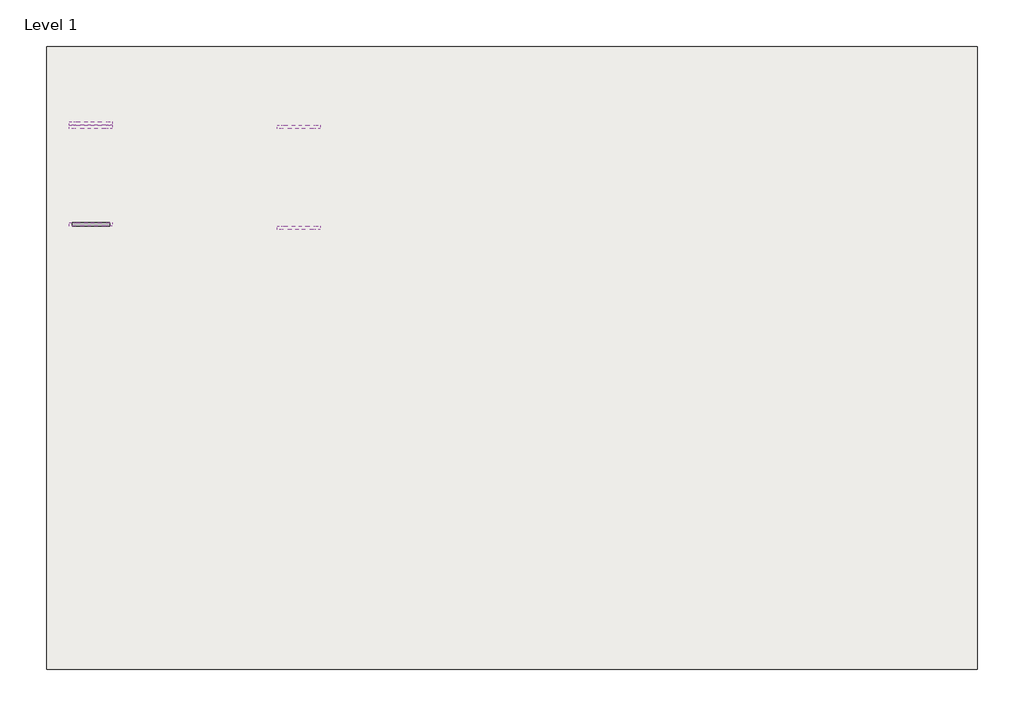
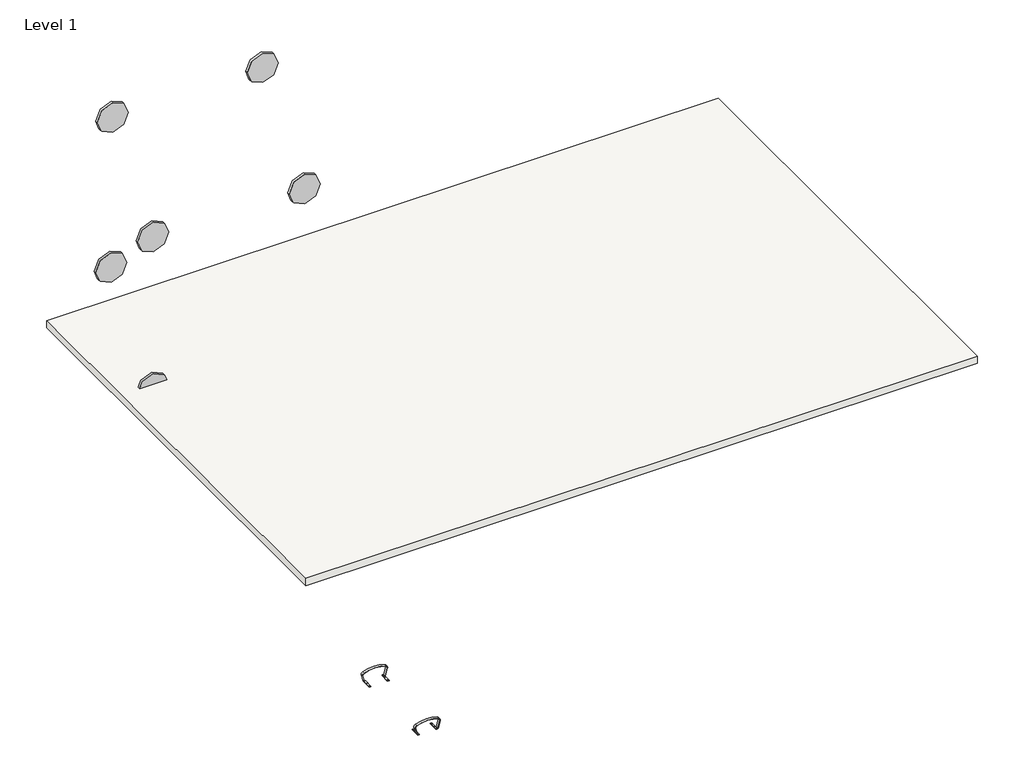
# One storey, incomplete: 6 proxies, 1 furniture element, 1 slab.
"""IFC4 building model written with IfcOpenShell, lengths in millimetres."""

import ifcopenshell
import ifcopenshell.guid

model = None  # the IFC model being written
_history = None  # IfcOwnerHistory: only IFC2X3 demands one
_inside = {}  # id of a spatial element -> (the spatial element, [elements in it])
_under = {}  # id of a project, library or spatial element -> (it, [spatial elements below it])
_declared = {}  # id of a project -> (the project, [libraries it declares])
_typed = {}  # id of a type object -> (the type object, [elements of that type])
_made_of = {}  # id of a material, layer set ... -> (it, [elements and type objects made of it])


def new_model(schema):
    """Start an empty IFC model of exactly this schema.

    Asked for "IFC4X3", IfcOpenShell would pick the latest addendum, in which some entities
    have other attributes; the version numbers below select the first issue.
    IFC2X3 requires an IfcOwnerHistory on every rooted entity: one is made here for all.
    """
    global model, _history
    if schema == "IFC4X3":
        model = ifcopenshell.file(schema_version=(4, 3, 0, 0))
    else:
        model = ifcopenshell.file(schema=schema)
    _inside.clear()
    _under.clear()
    _declared.clear()
    _typed.clear()
    _made_of.clear()
    _history = None
    if model.schema == "IFC2X3":
        org = make("IfcOrganization", Name="unknown")
        user = make(
            "IfcPersonAndOrganization",
            ThePerson=make("IfcPerson", FamilyName="unknown"),
            TheOrganization=org,
        )
        app = make(
            "IfcApplication",
            ApplicationDeveloper=org,
            Version="unknown",
            ApplicationFullName="unknown",
            ApplicationIdentifier="unknown",
        )
        _history = make(
            "IfcOwnerHistory",
            OwningUser=user,
            OwningApplication=app,
            ChangeAction="ADDED",
            CreationDate=0,
        )
    return model


def make(cls, **values):
    """One entity of the class cls with the attributes given. An attribute that is None is left unset."""
    return model.create_entity(
        cls, **{name: value for name, value in values.items() if value is not None}
    )


def rooted(cls, **values):
    """An entity with a GlobalId (a new one), such as an element, a storey or a relation."""
    return make(cls, GlobalId=ifcopenshell.guid.new(), OwnerHistory=_history, **values)


def si_unit(unit_type, name, prefix=None):
    """IfcSIUnit, for example si_unit("LENGTHUNIT", "METRE", prefix="MILLI")."""
    return make("IfcSIUnit", UnitType=unit_type, Prefix=prefix, Name=name)


def assignment(units):
    """IfcUnitAssignment: the units of a project."""
    return None if units is None else make("IfcUnitAssignment", Units=units)


def point(xyz):
    """IfcCartesianPoint."""
    return None if xyz is None else make("IfcCartesianPoint", Coordinates=xyz)


def direction(xyz):
    """IfcDirection."""
    return None if xyz is None else make("IfcDirection", DirectionRatios=xyz)


def frame(location, z_axis=None, x_axis=None):
    """IfcAxis2Placement3D, a coordinate frame: its origin and axes. An axis left out is left unset."""
    return make(
        "IfcAxis2Placement3D",
        Location=point(location),
        Axis=direction(z_axis),
        RefDirection=direction(x_axis),
    )


def frame_2d(location, x_axis=None):
    """IfcAxis2Placement2D, a coordinate frame in the plane: its origin and x axis."""
    return make(
        "IfcAxis2Placement2D", Location=point(location), RefDirection=direction(x_axis)
    )


def origin():
    """The frame at (0, 0, 0) with its axes left unset."""
    return frame((0.0, 0.0, 0.0))


def place(relative_to, where):
    """IfcLocalPlacement: puts the frame where relative to a parent placement (None: the world)."""
    return make(
        "IfcLocalPlacement", PlacementRelTo=relative_to, RelativePlacement=where
    )


def context(
    kind, dimensions, precision=None, world=None, true_north=None, identifier=None
):
    """IfcGeometricRepresentationContext, for example the 3D "Model" context."""
    return make(
        "IfcGeometricRepresentationContext",
        ContextIdentifier=identifier,
        ContextType=kind,
        CoordinateSpaceDimension=dimensions,
        Precision=precision,
        WorldCoordinateSystem=world,
        TrueNorth=true_north,
    )


def project(units=None, contexts=None):
    """IfcProject with its units and contexts."""
    return rooted(
        "IfcProject",
        Name="project",
        RepresentationContexts=contexts,
        UnitsInContext=assignment(units),
    )


def spatial(cls, under=None, at=None, **own):
    """A site, building, storey or space (cls), placed at a placement, below another one or the project."""
    s = rooted(cls, ObjectPlacement=at, **own)
    if under is not None:
        _under.setdefault(under.id(), (under, []))[1].append(s)
    return s


def polyline(points):
    """IfcPolyline through the points."""
    return make("IfcPolyline", Points=[point(p) for p in points])


def circle_curve(where, radius):
    """IfcCircle in the frame where."""
    return make("IfcCircle", Position=where, Radius=radius)


def trimmed(basis, trim1, trim2, sense, master):
    """IfcTrimmedCurve: the piece of a basis curve between two trims."""
    return make(
        "IfcTrimmedCurve",
        BasisCurve=basis,
        Trim1=trim1,
        Trim2=trim2,
        SenseAgreement=sense,
        MasterRepresentation=master,
    )


def segment(curve, same_sense, transition):
    """IfcCompositeCurveSegment."""
    return make(
        "IfcCompositeCurveSegment",
        Transition=transition,
        SameSense=same_sense,
        ParentCurve=curve,
    )


def composite_curve(segments, self_intersect=None):
    """IfcCompositeCurve: segments joined end to end."""
    return make("IfcCompositeCurve", Segments=segments, SelfIntersect=self_intersect)


def outline(outer, holes=None, kind="AREA"):
    """IfcArbitraryClosedProfileDef: a profile drawn as a closed curve; with holes, ...WithVoids."""
    if holes is None:
        return make("IfcArbitraryClosedProfileDef", ProfileType=kind, OuterCurve=outer)
    return make(
        "IfcArbitraryProfileDefWithVoids",
        ProfileType=kind,
        OuterCurve=outer,
        InnerCurves=holes,
    )


def extrude(swept, where, along, depth):
    """IfcExtrudedAreaSolid: the profile swept, set in the frame where, extruded along a direction by depth."""
    return make(
        "IfcExtrudedAreaSolid",
        SweptArea=swept,
        Position=where,
        ExtrudedDirection=direction(along),
        Depth=depth,
    )


def shape(context_of_items, identifier, shape_type, items):
    """IfcShapeRepresentation: the items that make up one representation, for example the "Body"."""
    return make(
        "IfcShapeRepresentation",
        ContextOfItems=context_of_items,
        RepresentationIdentifier=identifier,
        RepresentationType=shape_type,
        Items=items,
    )


def source(mapping_origin, context_of_items, identifier, shape_type, items):
    """IfcRepresentationMap: a shape defined once, which mapped items show again and again."""
    return make(
        "IfcRepresentationMap",
        MappingOrigin=mapping_origin,
        MappedRepresentation=shape(context_of_items, identifier, shape_type, items),
    )


def transform(
    local_origin,
    x_axis=None,
    y_axis=None,
    z_axis=None,
    scale=None,
    scale2=None,
    scale3=None,
    uniform=True,
):
    """IfcCartesianTransformationOperator3D, or its non-uniform kind. x_axis, y_axis, z_axis: its Axis1, 2, 3."""
    if uniform:
        return make(
            "IfcCartesianTransformationOperator3D",
            Axis1=direction(x_axis),
            Axis2=direction(y_axis),
            LocalOrigin=point(local_origin),
            Scale=scale,
            Axis3=direction(z_axis),
        )
    return make(
        "IfcCartesianTransformationOperator3DnonUniform",
        Axis1=direction(x_axis),
        Axis2=direction(y_axis),
        LocalOrigin=point(local_origin),
        Scale=scale,
        Axis3=direction(z_axis),
        Scale2=scale2,
        Scale3=scale3,
    )


def mapped(mapping_source, mapping_target):
    """IfcMappedItem: shows the shape of a source again, moved by a transform."""
    return make(
        "IfcMappedItem", MappingSource=mapping_source, MappingTarget=mapping_target
    )


def made_of(thing, what):
    """Note that an element or type object is made of a material, layer set ...; save() writes the relation."""
    if what is not None:
        _made_of.setdefault(what.id(), (what, []))[1].append(thing)
    return thing


def element(
    cls,
    number,
    at=None,
    inside=None,
    cuts=None,
    type_object=None,
    material=None,
    context=None,
    identifier="Body",
    shape_type=None,
    held_by="IfcProductDefinitionShape",
    body=None,
    shapes=None,
    **own,
):
    """One element of the class cls, such as IfcWall. Its Tag is "e" and its number.

    at: its placement. inside: the storey or other place that contains it. cuts: it is an
    opening in that element (IfcRelVoidsElement). A single representation is given by context,
    identifier, shape_type and body (its items); several are given by shapes. held_by: the class
    of the entity that holds the representations. save() writes the other relations.
    """
    e = rooted(cls, Tag="e%d" % number, ObjectPlacement=at, **own)
    if body is not None:
        shapes = [shape(context, identifier, shape_type, body)]
    if shapes is not None:
        e.Representation = make(held_by, Representations=shapes)
    if inside is not None:
        _inside.setdefault(inside.id(), (inside, []))[1].append(e)
    if cuts is not None:
        rooted(
            "IfcRelVoidsElement", RelatingBuildingElement=cuts, RelatedOpeningElement=e
        )
    if type_object is not None:
        _typed.setdefault(type_object.id(), (type_object, []))[1].append(e)
    return made_of(e, material)


def aggregate(whole, parts):
    """IfcRelAggregates: a whole, such as a stair, and the parts it consists of."""
    return rooted("IfcRelAggregates", RelatingObject=whole, RelatedObjects=parts)


def save(model, path):
    """Write the relations noted so far, then the file.

    IfcRelAggregates (storeys below a building ...), IfcRelContainedInSpatialStructure (elements
    in a storey), IfcRelDefinesByType, IfcRelAssociatesMaterial and IfcRelDeclares: one each for
    every whole, place, type object, material and project.
    """
    for whole, parts in _under.values():
        aggregate(whole, parts)
    for where, things in _inside.values():
        rooted(
            "IfcRelContainedInSpatialStructure",
            RelatedElements=things,
            RelatingStructure=where,
        )
    for kind, things in _typed.values():
        rooted("IfcRelDefinesByType", RelatedObjects=things, RelatingType=kind)
    for what, things in _made_of.values():
        rooted("IfcRelAssociatesMaterial", RelatedObjects=things, RelatingMaterial=what)
    for by, libraries in _declared.values():
        rooted("IfcRelDeclares", RelatingContext=by, RelatedDefinitions=libraries)
    model.write(path)


def plane_surface(at):
    """IfcPlane: the flat surface through the origin of the frame at, square to its z axis."""
    return make("IfcPlane", Position=at)


def cylinder_surface(at, radius):
    """IfcCylindricalSurface: all points at the distance radius from the z axis of the frame at."""
    return make("IfcCylindricalSurface", Position=at, Radius=radius)


def revolved_surface(curve, axis_point, axis_direction):
    """IfcSurfaceOfRevolution: the curve turned about the line through axis_point along axis_direction."""
    return make(
        "IfcSurfaceOfRevolution",
        SweptCurve=make("IfcArbitraryOpenProfileDef", ProfileType="CURVE", Curve=curve),
        AxisPosition=make("IfcAxis1Placement", Location=point(axis_point), Axis=direction(axis_direction)),
    )


def advanced_brep(points, edges, surfaces, faces):
    """IfcAdvancedBrep: a solid bounded by faces that lie on surfaces and meet in shared edges.

    An edge is (start, end): straight between two places in points (the first is 0);
    or (start, end, curve); or (start, end, curve, False) where it runs against its curve.
    A face is (place in surfaces, loops), or (place, loops, False) where it looks against
    its surface's normal. A loop lists edges by number (the first is 1), with a minus sign
    where the edge is run from its end to its start. The first loop is the outer one.
    """
    corners = [point(p) for p in points]
    vertices = [make("IfcVertexPoint", VertexGeometry=c) for c in corners]
    made = []
    for start, end, *more in edges:
        made.append(
            make(
                "IfcEdgeCurve",
                EdgeStart=vertices[start],
                EdgeEnd=vertices[end],
                EdgeGeometry=more[0] if more else make("IfcPolyline", Points=[corners[start], corners[end]]),
                SameSense=more[1] if len(more) > 1 else True,
            )
        )
    hull = []
    for where, loops, *sense in faces:
        bounds = []
        for j, loop in enumerate(loops):
            ring = [make("IfcOrientedEdge", EdgeElement=made[abs(k) - 1], Orientation=k > 0) for k in loop]
            bounds.append(
                make(
                    "IfcFaceOuterBound" if j == 0 else "IfcFaceBound",
                    Bound=make("IfcEdgeLoop", EdgeList=ring),
                    Orientation=True,
                )
            )
        hull.append(make("IfcAdvancedFace", Bounds=bounds, FaceSurface=surfaces[where], SameSense=sense[0] if sense else True))
    return make("IfcAdvancedBrep", Outer=make("IfcClosedShell", CfsFaces=hull))


def materialmodel_materialmodel_37012b21(model_context):
    return source(origin(), model_context, "Body", "SweptSolid", [
        extrude(outline(composite_curve([segment(trimmed(circle_curve(frame_2d((300.0, 0.0)), 300.0), [point((300.0, -300.0))], [point((300.0, 300.0))], False, "CARTESIAN"), True, "CONTINUOUS"), segment(trimmed(circle_curve(frame_2d((300.0, 0.0)), 300.0), [point((300.0, 300.0))], [point((300.0, -300.0))], False, "CARTESIAN"), True, "CONTINUOUS")], self_intersect=False)), frame((0.0, -50.0, 0.0), z_axis=(0.0, 1.0, 0.0), x_axis=(0.0, 0.0, 1.0)), (0.0, 0.0, 1.0), 50.0),
    ])


def vestre_urban_bench_526_vestre_urban_bench_526_43ba36d0(model_context):
    return source(origin(), model_context, "Body", "AdvancedBrep", [
        advanced_brep(
        [(720.0, 159.9998724, 412.0003662), (900.0, 159.9998724, 412.0003662), (910.0, 169.9998724, 412.0003662), (910.0, 190.1231897, 412.0003662), (860.0, 190.1234449, 412.0003662), (855.0, 190.1231897, 412.0003662), (720.0, 190.1231897, 412.0003662), (749.0142908, 175.0931821, 412.0003662), (741.0142908, 175.0931821, 412.0003662), (837.9750394, 175.0931821, 412.0003662), (829.9750394, 175.0931821, 412.0003662), (720.0, 159.9998724, 407.0003662), (720.0, 190.1231897, 407.0003662), (855.0, 190.1231897, 407.0003662), (860.0, 190.1231897, 407.0003662), (910.0, 190.1234449, 407.0003662), (910.0, 169.9998724, 407.0003662), (900.0, 159.9998724, 407.0003662), (741.0142908, 175.0931821, 407.0003662), (749.0142908, 175.0931821, 407.0003662), (829.9750394, 175.0931821, 407.0003662), (837.9750394, 175.0931821, 407.0003662), (910.0, 199.7379838, 414.2507042), (910.0, 240.2655528, 555.9604443), (910.0, 213.6012512, 610.159785), (910.0, -213.600996, 610.159785), (910.0, -240.2652976, 555.9604443), (910.0, -199.7377286, 414.2507042), (910.0, -190.1231897, 407.0003662), (910.0, -169.9998724, 407.0003662), (910.0, -169.9998724, 412.0003662), (910.0, -190.1231897, 412.0003662), (910.0, -194.9304591, 415.6255352), (910.0, -235.4580281, 557.3352754), (910.0, -211.7564267, 605.512467), (910.0, 211.7566819, 605.512467), (910.0, 235.4582833, 557.3352754), (910.0, 194.9307143, 415.6255352), (741.0142908, -175.0931821, 407.0003662), (741.0142908, -175.0931821, 412.0), (749.0142908, -175.0931821, 412.0003662), (749.0142908, -175.0931821, 407.0003662), (829.9750394, -175.0931821, 407.0003662), (829.9750394, -175.0931821, 412.0), (837.9750394, -175.0931821, 412.0003662), (837.9750394, -175.0931821, 407.0003662), (860.0, 235.4582833, 557.3352754), (860.0, 211.7566819, 605.512467), (860.0, -211.7564267, 605.512467), (860.0, -235.4580281, 557.3352754), (860.0, -194.9304591, 415.6255352), (860.0, -190.1231897, 412.0003662), (860.0, -190.1231897, 407.0003662), (860.0, -199.7377286, 414.2507042), (860.0, -240.2652976, 555.9604443), (860.0, -213.600996, 610.159785), (860.0, 213.6012512, 610.159785), (860.0, 240.2655528, 555.9604443), (860.0, 199.7379838, 414.2507042), (860.0, 194.9307143, 415.6255352), (720.0, -159.9998724, 412.0003662), (720.0, -190.1231897, 412.0003662), (855.0, -190.1231897, 412.0003662), (900.0, -159.9998724, 412.0003662), (720.0, -159.9998724, 407.0003662), (900.0, -159.9998724, 407.0003662), (855.0, -190.1231897, 407.0003662), (720.0, -190.1231897, 407.0003662)],
        [
            (0, 1),
            (1, 2, circle_curve(frame((900.0, 169.9998724, 412.0003662), z_axis=(0.0, 0.0, 1.0), x_axis=(1.0, 0.0, 0.0)), 10.0)),
            (2, 3),
            (3, 4),
            (4, 5),
            (5, 6),
            (6, 0),
            (7, 8, circle_curve(frame((745.0142908, 175.0931821, 412.0003662), z_axis=(0.0, 0.0, -1.0), x_axis=(-1.0, 0.0, 0.0)), 4.0)),
            (8, 7, circle_curve(frame((745.0142908, 175.0931821, 412.0003662), z_axis=(0.0, 0.0, -1.0), x_axis=(-1.0, 0.0, 0.0)), 4.0)),
            (9, 10, circle_curve(frame((833.9750394, 175.0931821, 412.0003662), z_axis=(0.0, 0.0, -1.0), x_axis=(-1.0, 0.0, 0.0)), 4.0)),
            (10, 9, circle_curve(frame((833.9750394, 175.0931821, 412.0003662), z_axis=(0.0, 0.0, -1.0), x_axis=(-1.0, 0.0, 0.0)), 4.0)),
            (11, 12),
            (12, 13),
            (13, 14),
            (14, 15),
            (15, 16),
            (16, 17, circle_curve(frame((900.0, 169.9998724, 407.0003662), z_axis=(0.0, 0.0, -1.0), x_axis=(1.0, 0.0, 0.0)), 10.0)),
            (17, 11),
            (18, 19, circle_curve(frame((745.0142908, 175.0931821, 407.0003662), z_axis=(0.0, 0.0, 1.0), x_axis=(-1.0, 0.0, 0.0)), 4.0)),
            (19, 18, circle_curve(frame((745.0142908, 175.0931821, 407.0003662), z_axis=(0.0, 0.0, 1.0), x_axis=(-1.0, 0.0, 0.0)), 4.0)),
            (20, 21, circle_curve(frame((833.9750394, 175.0931821, 407.0003662), z_axis=(0.0, 0.0, 1.0), x_axis=(-1.0, 0.0, 0.0)), 4.0)),
            (21, 20, circle_curve(frame((833.9750394, 175.0931821, 407.0003662), z_axis=(0.0, 0.0, 1.0), x_axis=(-1.0, 0.0, 0.0)), 4.0)),
            (0, 11),
            (17, 1),
            (16, 2),
            (15, 22, circle_curve(frame((910.0, 190.1234449, 417.0003662), z_axis=(1.0, 0.0, 0.0), x_axis=(0.0, 0.961453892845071, -0.2749662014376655)), 10.0)),
            (22, 23),
            (23, 24, circle_curve(frame((910.0, 197.0001276, 568.3339234), z_axis=(1.0, 0.0, 0.0), x_axis=(0.0, 0.3689138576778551, 0.9294635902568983)), 45.0)),
            (24, 25, circle_curve(frame((910.0, 0.0001276, 72.0003662), z_axis=(1.0, 0.0, 0.0), x_axis=(0.0, -0.36891385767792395, 0.929463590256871)), 579.0)),
            (25, 26, circle_curve(frame((910.0, -196.9998724, 568.3339234), z_axis=(1.0, 0.0, 0.0), x_axis=(0.0, -0.9614538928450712, -0.2749662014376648)), 45.0)),
            (26, 27),
            (27, 28, circle_curve(frame((910.0, -190.1231897, 417.0003662), z_axis=(1.0, 0.0, 0.0), x_axis=(0.0, 0.0, -1.0)), 10.0)),
            (28, 29),
            (29, 30),
            (30, 31),
            (31, 32, circle_curve(frame((910.0, -190.1231897, 417.0003662), z_axis=(-1.0, 0.0, 0.0), x_axis=(0.0, 0.0, -1.0)), 5.0)),
            (32, 33),
            (33, 34, circle_curve(frame((910.0, -196.9998724, 568.3339234), z_axis=(-1.0, 0.0, 0.0), x_axis=(0.0, -0.9614538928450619, -0.27496620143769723)), 40.0)),
            (34, 35, circle_curve(frame((910.0, 0.0001276, 72.0003662), z_axis=(-1.0, 0.0, 0.0), x_axis=(0.0, -0.36891385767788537, 0.9294635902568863)), 574.0)),
            (35, 36, circle_curve(frame((910.0, 197.0001276, 568.3339234), z_axis=(-1.0, 0.0, 0.0), x_axis=(0.0, 0.36891385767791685, 0.9294635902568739)), 40.0)),
            (36, 37),
            (37, 3, circle_curve(frame((910.0, 190.1234449, 417.0003662), z_axis=(-1.0, 0.0, 0.0), x_axis=(0.0, 0.961453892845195, -0.27496620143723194)), 5.0)),
            (13, 5),
            (4, 14),
            (12, 6),
            (38, 39),
            (39, 40, circle_curve(frame((745.0142908, -175.0931821, 412.0003662), z_axis=(0.0, 0.0, 1.0), x_axis=(-1.0, 0.0, 0.0)), 4.0)),
            (40, 41),
            (41, 38, circle_curve(frame((745.0142908, -175.0931821, 407.0003662), z_axis=(0.0, 0.0, -1.0), x_axis=(-1.0, 0.0, 0.0)), 4.0)),
            (38, 41, circle_curve(frame((745.0142908, -175.0931821, 407.0003662), z_axis=(0.0, 0.0, -1.0), x_axis=(-1.0, 0.0, 0.0)), 4.0)),
            (40, 39, circle_curve(frame((745.0142908, -175.0931821, 412.0003662), z_axis=(0.0, 0.0, 1.0), x_axis=(-1.0, 0.0, 0.0)), 4.0)),
            (42, 43),
            (43, 44, circle_curve(frame((833.9750394, -175.0931821, 412.0003662), z_axis=(0.0, 0.0, 1.0), x_axis=(-1.0, 0.0, 0.0)), 4.0)),
            (44, 45),
            (45, 42, circle_curve(frame((833.9750394, -175.0931821, 407.0003662), z_axis=(0.0, 0.0, -1.0), x_axis=(-1.0, 0.0, 0.0)), 4.0)),
            (42, 45, circle_curve(frame((833.9750394, -175.0931821, 407.0003662), z_axis=(0.0, 0.0, -1.0), x_axis=(-1.0, 0.0, 0.0)), 4.0)),
            (44, 43, circle_curve(frame((833.9750394, -175.0931821, 412.0003662), z_axis=(0.0, 0.0, 1.0), x_axis=(-1.0, 0.0, 0.0)), 4.0)),
            (18, 8),
            (7, 19),
            (20, 10),
            (9, 21),
            (46, 47, circle_curve(frame((860.0, 197.0001276, 568.3339234), z_axis=(1.0, 0.0, 0.0), x_axis=(0.0, 0.36891385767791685, 0.9294635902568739)), 40.0)),
            (47, 48, circle_curve(frame((860.0, 0.0001276, 72.0003662), z_axis=(1.0, 0.0, 0.0), x_axis=(0.0, -0.36891385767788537, 0.9294635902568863)), 574.0)),
            (48, 49, circle_curve(frame((860.0, -196.9998724, 568.3339234), z_axis=(1.0, 0.0, 0.0), x_axis=(0.0, -0.9614538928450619, -0.27496620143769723)), 40.0)),
            (49, 50),
            (50, 51, circle_curve(frame((860.0, -190.1231897, 417.0003662), z_axis=(1.0, 0.0, 0.0), x_axis=(0.0, 0.0, -1.0)), 5.0)),
            (51, 52),
            (52, 53, circle_curve(frame((860.0, -190.1231897, 417.0003662), z_axis=(-1.0, 0.0, 0.0), x_axis=(0.0, 0.0, -1.0)), 10.0)),
            (53, 54),
            (54, 55, circle_curve(frame((860.0, -196.9998724, 568.3339234), z_axis=(-1.0, 0.0, 0.0), x_axis=(0.0, -0.9614538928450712, -0.2749662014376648)), 45.0)),
            (55, 56, circle_curve(frame((860.0, 0.0001276, 72.0003662), z_axis=(-1.0, 0.0, 0.0), x_axis=(0.0, -0.36891385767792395, 0.929463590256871)), 579.0)),
            (56, 57, circle_curve(frame((860.0, 197.0001276, 568.3339234), z_axis=(-1.0, 0.0, 0.0), x_axis=(0.0, 0.3689138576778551, 0.9294635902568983)), 45.0)),
            (57, 58),
            (58, 14, circle_curve(frame((860.0, 190.1234449, 417.0003662), z_axis=(-1.0, 0.0, 0.0), x_axis=(0.0, 0.961453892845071, -0.2749662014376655)), 10.0)),
            (4, 59, circle_curve(frame((860.0, 190.1234449, 417.0003662), z_axis=(1.0, 0.0, 0.0), x_axis=(0.0, 0.961453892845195, -0.27496620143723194)), 5.0)),
            (59, 46),
            (59, 37),
            (36, 46),
            (58, 22),
            (57, 23),
            (56, 24),
            (55, 25),
            (54, 26),
            (53, 27),
            (52, 28),
            (50, 32),
            (31, 51),
            (49, 33),
            (48, 34),
            (47, 35),
            (60, 61),
            (61, 62),
            (62, 51),
            (30, 63, circle_curve(frame((900.0, -169.9998724, 412.0003662), z_axis=(0.0, 0.0, 1.0), x_axis=(1.0, 0.0, 0.0)), 10.0)),
            (63, 60),
            (64, 65),
            (65, 29, circle_curve(frame((900.0, -169.9998724, 407.0003662), z_axis=(0.0, 0.0, -1.0), x_axis=(1.0, 0.0, 0.0)), 10.0)),
            (52, 66),
            (66, 67),
            (67, 64),
            (63, 65),
            (64, 60),
            (62, 66),
            (61, 67),
        ],
        [
            plane_surface(frame((720.0, 159.9998724, 412.0003662), z_axis=(0.0, 0.0, 1.0), x_axis=(1.0, 0.0, 0.0))),
            plane_surface(frame((720.0, 159.9998724, 407.0003662), z_axis=(0.0, 0.0, -1.0), x_axis=(-1.0, 0.0, 0.0))),
            plane_surface(frame((720.0, 159.9998724, 412.0003662), z_axis=(0.0, -1.0, 0.0), x_axis=(0.0, 0.0, -1.0))),
            cylinder_surface(frame((900.0, 169.9998724, 407.0003662), z_axis=(0.0, 0.0, 1.0), x_axis=(1.0, 0.0, 0.0)), 10.0),
            plane_surface(frame((910.0, 169.9998724, 412.0003662), z_axis=(1.0, 0.0, 0.0), x_axis=(0.0, 0.0, -1.0))),
            plane_surface(frame((910.0, 190.1231897, 412.0003662), z_axis=(0.0, 1.0, 0.0), x_axis=(0.0, 0.0, -1.0))),
            plane_surface(frame((855.0, 190.1231897, 412.0003662), z_axis=(0.0, 1.0, 0.0), x_axis=(0.0, 0.0, -1.0))),
            plane_surface(frame((720.0, 190.1231897, 412.0003662), z_axis=(-1.0, 0.0, 0.0), x_axis=(0.0, 0.0, -1.0))),
            revolved_surface(polyline([(741.0142908, -175.0931821, 412.0003662), (741.0142908, -175.0931821, 407.0003662)]), (745.0142908, -175.0931821, 403.3920941), (0.0, 0.0, 1.0)),
            revolved_surface(polyline([(829.9750394, -175.0931821, 412.0003662), (829.9750394, -175.0931821, 407.0003662)]), (833.9750394, -175.0931821, 0.0), (0.0, 0.0, 1.0)),
            revolved_surface(polyline([(741.0142908, 175.0931821, 412.0003662), (741.0142908, 175.0931821, 407.0003662)]), (745.0142908, 175.0931821, 0.0), (0.0, 0.0, 1.0)),
            revolved_surface(polyline([(829.9750394, 175.0931821, 412.0003662), (829.9750394, 175.0931821, 407.0003662)]), (833.9750394, 175.0931821, 0.0), (0.0, 0.0, 1.0)),
            plane_surface(frame((860.0, 211.7566819, 605.512467), z_axis=(-1.0000000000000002, 0.0, 0.0), x_axis=(0.0, -0.9294635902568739, 0.36891385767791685))),
            plane_surface(frame((860.0, 194.9307143, 415.6255352), z_axis=(0.0, -0.9614538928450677, 0.27496620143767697), x_axis=(1.0, 0.0, 0.0))),
            revolved_surface(polyline([(910.0, 194.930714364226, 415.6255351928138), (860.0, 194.930714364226, 415.6255351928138)]), (910.0, 190.1234449, 417.0003662), (1.0000000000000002, 0.0, 0.0)),
            cylinder_surface(frame((910.0, 190.1234449, 417.0003662), z_axis=(-1.0, 0.0, 0.0), x_axis=(0.0, 0.961453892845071, -0.2749662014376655)), 10.0),
            plane_surface(frame((860.0, 240.2655528, 555.9604443), z_axis=(0.0, 0.96145389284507, -0.2749662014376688), x_axis=(1.0, 0.0, 0.0))),
            cylinder_surface(frame((910.0, 197.0001276, 568.3339234), z_axis=(-1.0, 0.0, 0.0), x_axis=(0.0, 0.3689138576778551, 0.9294635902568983)), 45.0),
            cylinder_surface(frame((910.0, 0.0001276, 72.0003662), z_axis=(-1.0, 0.0, 0.0), x_axis=(0.0, -0.36891385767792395, 0.929463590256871)), 579.0),
            cylinder_surface(frame((910.0, -196.9998724, 568.3339234), z_axis=(-1.0000000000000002, 0.0, 0.0), x_axis=(0.0, -0.9614538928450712, -0.2749662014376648)), 45.0),
            plane_surface(frame((860.0, -199.7377286, 414.2507042), z_axis=(0.0, -0.9614538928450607, -0.2749662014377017), x_axis=(1.0, 0.0, 0.0))),
            cylinder_surface(frame((910.0, -190.1231897, 417.0003662), z_axis=(-1.0, 0.0, 0.0), x_axis=(0.0, 0.0, -1.0)), 10.0),
            revolved_surface(polyline([(910.0, -190.1231897, 412.0003662), (860.0, -190.1231897, 412.0003662)]), (910.0, -190.1231897, 417.0003662), (1.0, 0.0, 0.0)),
            plane_surface(frame((860.0, -235.4580281, 557.3352754), z_axis=(0.0, 0.9614538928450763, 0.27496620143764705), x_axis=(1.0, 0.0, 0.0))),
            revolved_surface(polyline([(910.0, -235.45802811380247, 557.3352753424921), (860.0, -235.45802811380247, 557.3352753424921)]), (910.0, -196.9998724, 568.3339234), (1.0, 0.0, 0.0)),
            revolved_surface(polyline([(910.0, -211.7564267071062, 605.5124670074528), (860.0, -211.7564267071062, 605.5124670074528)]), (910.0, 0.0001276, 72.0003662), (1.0, 0.0, 0.0)),
            revolved_surface(polyline([(910.0, 211.75668190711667, 605.5124670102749), (860.0, 211.75668190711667, 605.5124670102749)]), (910.0, 197.0001276, 568.3339234), (1.0000000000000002, 0.0, 0.0)),
            plane_surface(frame((720.0, -190.1231897, 412.0003662), z_axis=(0.0, 0.0, 1.0), x_axis=(0.0, -1.0, 0.0))),
            plane_surface(frame((720.0, -190.1231897, 407.0003662), z_axis=(0.0, 0.0, -1.0), x_axis=(0.0, 1.0, 0.0))),
            plane_surface(frame((900.0, -159.9998724, 412.0003662), z_axis=(0.0, 1.0, 0.0), x_axis=(0.0, 0.0, -1.0))),
            cylinder_surface(frame((900.0, -169.9998724, 407.0003662), z_axis=(0.0, 0.0, 1.0), x_axis=(1.0, 0.0, 0.0)), 10.0),
            plane_surface(frame((855.0, -190.1231897, 412.0003662), z_axis=(0.0, -1.0, 0.0), x_axis=(0.0, 0.0, -1.0))),
            plane_surface(frame((720.0, -190.1231897, 412.0003662), z_axis=(0.0, -1.0, 0.0), x_axis=(0.0, 0.0, -1.0))),
            plane_surface(frame((720.0, -159.9998724, 412.0003662), z_axis=(-1.0, 0.0, 0.0), x_axis=(0.0, 0.0, -1.0))),
        ],
        [
            (0, [[1, 2, 3, 4, 5, 6, 7], [8, 9], [10, 11]]),
            (1, [[12, 13, 14, 15, 16, 17, 18], [19, 20], [21, 22]]),
            (2, [[-1, 23, -18, 24]]),
            (3, [[-2, -24, -17, 25]]),
            (4, [[-3, -25, -16, 26, 27, 28, 29, 30, 31, 32, 33, 34, 35, 36, 37, 38, 39, 40, 41, 42]]),
            (5, [[43, -5, 44, -14]]),
            (6, [[-6, -43, -13, 45]]),
            (7, [[-7, -45, -12, -23]]),
            (8, [[46, 47, 48, 49]]),
            (8, [[-46, 50, -48, 51]]),
            (9, [[52, 53, 54, 55]]),
            (9, [[-52, 56, -54, 57]]),
            (10, [[58, -8, 59, -19]]),
            (10, [[-58, -20, -59, -9]]),
            (11, [[60, -10, 61, -21]]),
            (11, [[-60, -22, -61, -11]]),
            (12, [[62, 63, 64, 65, 66, 67, 68, 69, 70, 71, 72, 73, 74, -44, 75, 76]]),
            (13, [[-76, 77, -41, 78]]),
            (14, [[-75, -4, -42, -77]]),
            (15, [[-74, 79, -26, -15]]),
            (16, [[-73, 80, -27, -79]]),
            (17, [[-72, 81, -28, -80]]),
            (18, [[-71, 82, -29, -81]]),
            (19, [[-70, 83, -30, -82]]),
            (20, [[-69, 84, -31, -83]]),
            (21, [[-68, 85, -32, -84]]),
            (22, [[-66, 86, -36, 87]]),
            (23, [[-65, 88, -37, -86]]),
            (24, [[-64, 89, -38, -88]]),
            (25, [[-63, 90, -39, -89]]),
            (26, [[-62, -78, -40, -90]]),
            (27, [[91, 92, 93, -87, -35, 94, 95], [-47, -51], [-53, -57]]),
            (28, [[96, 97, -33, -85, 98, 99, 100], [-49, -50], [-55, -56]]),
            (29, [[-95, 101, -96, 102]]),
            (30, [[-94, -34, -97, -101]]),
            (31, [[103, -98, -67, -93]]),
            (32, [[-92, 104, -99, -103]]),
            (33, [[-91, -102, -100, -104]]),
        ],
    ),
        advanced_brep(
        [(-860.0, 235.4582833, 557.3352754), (-860.0, 194.9307143, 415.6255352), (-860.0, 190.1231897, 412.0003662), (-860.0, 190.1231897, 407.0003662), (-860.0, 199.7379838, 414.2507042), (-860.0, 240.2655528, 555.9604443), (-860.0, 213.6012512, 610.159785), (-860.0, -213.600996, 610.159785), (-860.0, -240.2652976, 555.9604443), (-860.0, -199.7377286, 414.2507042), (-860.0, -190.1231897, 407.0003662), (-860.0, -190.1231897, 412.0003662), (-860.0, -194.9304591, 415.6255352), (-860.0, -235.4580281, 557.3352754), (-860.0, -211.7564267, 605.512467), (-860.0, 211.7566819, 605.512467), (-910.0, 235.4582833, 557.3352754), (-910.0, 194.9307143, 415.6255352), (-910.0, 190.1231897, 412.0003662), (-910.0, 190.1234449, 407.0003662), (-910.0, 199.7379838, 414.2507042), (-910.0, 240.2655528, 555.9604443), (-910.0, 213.6012512, 610.159785), (-910.0, -213.600996, 610.159785), (-910.0, -240.2652976, 555.9604443), (-910.0, -199.7377286, 414.2507042), (-910.0, -190.1231897, 407.0003662), (-910.0, -190.1231897, 412.0003662), (-910.0, -194.9304591, 415.6255352), (-910.0, -235.4580281, 557.3352754), (-910.0, -211.7564267, 605.512467), (-910.0, 211.7566819, 605.512467), (-720.0, -159.9998724, 412.0003662), (-900.0, -159.9998724, 412.0003662), (-910.0, -169.9998724, 412.0003662), (-855.0, -190.1231897, 412.0003662), (-720.0, -190.1231897, 412.0003662), (-741.0142908, -175.0931821, 412.0003662), (-749.0142908, -175.0931821, 412.0003662), (-829.9750394, -175.0931821, 412.0003662), (-837.9750394, -175.0931821, 412.0003662), (-720.0, -159.9998724, 407.0003662), (-720.0, -190.1231897, 407.0003662), (-855.0, -190.1231897, 407.0003662), (-910.0, -169.9998724, 407.0003662), (-900.0, -159.9998724, 407.0003662), (-749.0142908, -175.0931821, 407.0003662), (-741.0142908, -175.0931821, 407.0003662), (-837.9750394, -175.0931821, 407.0003662), (-829.9750394, -175.0931821, 407.0003662), (-910.0, 169.9998724, 407.0003662), (-910.0, 169.9998724, 412.0003662), (-720.0, 159.9998724, 412.0003662), (-720.0, 190.1231897, 412.0003662), (-855.0, 190.1231897, 412.0003662), (-900.0, 159.9998724, 412.0003662), (-741.0142908, 175.0931821, 412.0003662), (-749.0142908, 175.0931821, 412.0003662), (-829.9750394, 175.0931821, 412.0003662), (-837.9750394, 175.0931821, 412.0003662), (-720.0, 159.9998724, 407.0003662), (-900.0, 159.9998724, 407.0003662), (-855.0, 190.1231897, 407.0003662), (-720.0, 190.1231897, 407.0003662), (-749.0142908, 175.0931821, 407.0003662), (-741.0142908, 175.0931821, 407.0003662), (-837.9750394, 175.0931821, 407.0003662), (-829.9750394, 175.0931821, 407.0003662)],
        [
            (0, 1),
            (1, 2, circle_curve(frame((-860.0, 190.1234449, 417.0003662), z_axis=(-1.0, 0.0, 0.0), x_axis=(0.0, 0.961453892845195, -0.27496620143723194)), 5.0)),
            (2, 3),
            (3, 4, circle_curve(frame((-860.0, 190.1234449, 417.0003662), z_axis=(1.0, 0.0, 0.0), x_axis=(0.0, 0.961453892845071, -0.2749662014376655)), 10.0)),
            (4, 5),
            (5, 6, circle_curve(frame((-860.0, 197.0001276, 568.3339234), z_axis=(1.0, 0.0, 0.0), x_axis=(0.0, 0.3689138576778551, 0.9294635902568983)), 45.0)),
            (6, 7, circle_curve(frame((-860.0, 0.0001276, 72.0003662), z_axis=(1.0, 0.0, 0.0), x_axis=(0.0, -0.36891385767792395, 0.929463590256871)), 579.0)),
            (7, 8, circle_curve(frame((-860.0, -196.9998724, 568.3339234), z_axis=(1.0, 0.0, 0.0), x_axis=(0.0, -0.9614538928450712, -0.2749662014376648)), 45.0)),
            (8, 9),
            (9, 10, circle_curve(frame((-860.0, -190.1231897, 417.0003662), z_axis=(1.0, 0.0, 0.0), x_axis=(0.0, 0.0, -1.0)), 10.0)),
            (10, 11),
            (11, 12, circle_curve(frame((-860.0, -190.1231897, 417.0003662), z_axis=(-1.0, 0.0, 0.0), x_axis=(0.0, 0.0, -1.0)), 5.0)),
            (12, 13),
            (13, 14, circle_curve(frame((-860.0, -196.9998724, 568.3339234), z_axis=(-1.0, 0.0, 0.0), x_axis=(0.0, -0.9614538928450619, -0.27496620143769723)), 40.0)),
            (14, 15, circle_curve(frame((-860.0, 0.0001276, 72.0003662), z_axis=(-1.0, 0.0, 0.0), x_axis=(0.0, -0.36891385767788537, 0.9294635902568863)), 574.0)),
            (15, 0, circle_curve(frame((-860.0, 197.0001276, 568.3339234), z_axis=(-1.0, 0.0, 0.0), x_axis=(0.0, 0.36891385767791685, 0.9294635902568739)), 40.0)),
            (0, 16),
            (16, 17),
            (17, 1),
            (17, 18, circle_curve(frame((-910.0, 190.1234449, 417.0003662), z_axis=(-1.0, 0.0, 0.0), x_axis=(0.0, 0.961453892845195, -0.27496620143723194)), 5.0)),
            (18, 2),
            (3, 19),
            (19, 20, circle_curve(frame((-910.0, 190.1234449, 417.0003662), z_axis=(1.0, 0.0, 0.0), x_axis=(0.0, 0.961453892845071, -0.2749662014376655)), 10.0)),
            (20, 4),
            (20, 21),
            (21, 5),
            (21, 22, circle_curve(frame((-910.0, 197.0001276, 568.3339234), z_axis=(1.0, 0.0, 0.0), x_axis=(0.0, 0.3689138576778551, 0.9294635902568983)), 45.0)),
            (22, 6),
            (22, 23, circle_curve(frame((-910.0, 0.0001276, 72.0003662), z_axis=(1.0, 0.0, 0.0), x_axis=(0.0, -0.36891385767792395, 0.929463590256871)), 579.0)),
            (23, 7),
            (23, 24, circle_curve(frame((-910.0, -196.9998724, 568.3339234), z_axis=(1.0, 0.0, 0.0), x_axis=(0.0, -0.9614538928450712, -0.2749662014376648)), 45.0)),
            (24, 8),
            (24, 25),
            (25, 9),
            (25, 26, circle_curve(frame((-910.0, -190.1231897, 417.0003662), z_axis=(1.0, 0.0, 0.0), x_axis=(0.0, 0.0, -1.0)), 10.0)),
            (26, 10),
            (11, 27),
            (27, 28, circle_curve(frame((-910.0, -190.1231897, 417.0003662), z_axis=(-1.0, 0.0, 0.0), x_axis=(0.0, 0.0, -1.0)), 5.0)),
            (28, 12),
            (28, 29),
            (29, 13),
            (29, 30, circle_curve(frame((-910.0, -196.9998724, 568.3339234), z_axis=(-1.0, 0.0, 0.0), x_axis=(0.0, -0.9614538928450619, -0.27496620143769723)), 40.0)),
            (30, 14),
            (30, 31, circle_curve(frame((-910.0, 0.0001276, 72.0003662), z_axis=(-1.0, 0.0, 0.0), x_axis=(0.0, -0.36891385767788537, 0.9294635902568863)), 574.0)),
            (31, 15),
            (31, 16, circle_curve(frame((-910.0, 197.0001276, 568.3339234), z_axis=(-1.0, 0.0, 0.0), x_axis=(0.0, 0.36891385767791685, 0.9294635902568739)), 40.0)),
            (32, 33),
            (33, 34, circle_curve(frame((-900.0, -169.9998724, 412.0003662), z_axis=(0.0, 0.0, 1.0), x_axis=(-1.0, 0.0, 0.0)), 10.0)),
            (34, 27),
            (11, 35),
            (35, 36),
            (36, 32),
            (37, 38, circle_curve(frame((-745.0142908, -175.0931821, 412.0003662), z_axis=(0.0, 0.0, -1.0), x_axis=(1.0, 0.0, 0.0)), 4.0)),
            (38, 37, circle_curve(frame((-745.0142908, -175.0931821, 412.0003662), z_axis=(0.0, 0.0, -1.0), x_axis=(1.0, 0.0, 0.0)), 4.0)),
            (39, 40, circle_curve(frame((-833.9750394, -175.0931821, 412.0003662), z_axis=(0.0, 0.0, -1.0), x_axis=(1.0, 0.0, 0.0)), 4.0)),
            (40, 39, circle_curve(frame((-833.9750394, -175.0931821, 412.0003662), z_axis=(0.0, 0.0, -1.0), x_axis=(1.0, 0.0, 0.0)), 4.0)),
            (41, 42),
            (42, 43),
            (43, 10),
            (26, 44),
            (44, 45, circle_curve(frame((-900.0, -169.9998724, 407.0003662), z_axis=(0.0, 0.0, -1.0), x_axis=(-1.0, 0.0, 0.0)), 10.0)),
            (45, 41),
            (46, 47, circle_curve(frame((-745.0142908, -175.0931821, 407.0003662), z_axis=(0.0, 0.0, 1.0), x_axis=(1.0, 0.0, 0.0)), 4.0)),
            (47, 46, circle_curve(frame((-745.0142908, -175.0931821, 407.0003662), z_axis=(0.0, 0.0, 1.0), x_axis=(1.0, 0.0, 0.0)), 4.0)),
            (48, 49, circle_curve(frame((-833.9750394, -175.0931821, 407.0003662), z_axis=(0.0, 0.0, 1.0), x_axis=(1.0, 0.0, 0.0)), 4.0)),
            (49, 48, circle_curve(frame((-833.9750394, -175.0931821, 407.0003662), z_axis=(0.0, 0.0, 1.0), x_axis=(1.0, 0.0, 0.0)), 4.0)),
            (32, 41),
            (45, 33),
            (44, 34),
            (19, 50),
            (50, 51),
            (51, 18),
            (43, 35),
            (42, 36),
            (52, 53),
            (53, 54),
            (54, 2),
            (51, 55, circle_curve(frame((-900.0, 169.9998724, 412.0003662), z_axis=(0.0, 0.0, 1.0), x_axis=(-1.0, 0.0, 0.0)), 10.0)),
            (55, 52),
            (56, 57, circle_curve(frame((-745.0142908, 175.0931821, 412.0003662), z_axis=(0.0, 0.0, -1.0), x_axis=(1.0, 0.0, 0.0)), 4.0)),
            (57, 56, circle_curve(frame((-745.0142908, 175.0931821, 412.0003662), z_axis=(0.0, 0.0, -1.0), x_axis=(1.0, 0.0, 0.0)), 4.0)),
            (58, 59, circle_curve(frame((-833.9750394, 175.0931821, 412.0003662), z_axis=(0.0, 0.0, -1.0), x_axis=(1.0, 0.0, 0.0)), 4.0)),
            (59, 58, circle_curve(frame((-833.9750394, 175.0931821, 412.0003662), z_axis=(0.0, 0.0, -1.0), x_axis=(1.0, 0.0, 0.0)), 4.0)),
            (60, 61),
            (61, 50, circle_curve(frame((-900.0, 169.9998724, 407.0003662), z_axis=(0.0, 0.0, -1.0), x_axis=(-1.0, 0.0, 0.0)), 10.0)),
            (3, 62),
            (62, 63),
            (63, 60),
            (64, 65, circle_curve(frame((-745.0142908, 175.0931821, 407.0003662), z_axis=(0.0, 0.0, 1.0), x_axis=(1.0, 0.0, 0.0)), 4.0)),
            (65, 64, circle_curve(frame((-745.0142908, 175.0931821, 407.0003662), z_axis=(0.0, 0.0, 1.0), x_axis=(1.0, 0.0, 0.0)), 4.0)),
            (66, 67, circle_curve(frame((-833.9750394, 175.0931821, 407.0003662), z_axis=(0.0, 0.0, 1.0), x_axis=(1.0, 0.0, 0.0)), 4.0)),
            (67, 66, circle_curve(frame((-833.9750394, 175.0931821, 407.0003662), z_axis=(0.0, 0.0, 1.0), x_axis=(1.0, 0.0, 0.0)), 4.0)),
            (55, 61),
            (60, 52),
            (54, 62),
            (53, 63),
            (37, 47),
            (46, 38),
            (39, 49),
            (48, 40),
            (56, 65),
            (64, 57),
            (58, 67),
            (66, 59),
        ],
        [
            plane_surface(frame((-860.0, 235.4582833, 557.3352754), z_axis=(1.0, 0.0, 0.0), x_axis=(0.0, -0.27496620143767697, -0.9614538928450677))),
            plane_surface(frame((-860.0, 235.4582833, 557.3352754), z_axis=(0.0, -0.9614538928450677, 0.27496620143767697), x_axis=(-1.0, 0.0, 0.0))),
            revolved_surface(polyline([(-910.0, 194.930714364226, 415.6255351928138), (-860.0, 194.930714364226, 415.6255351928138)]), (-910.0, 190.1234449, 417.0003662), (-1.0000000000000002, 0.0, 0.0)),
            cylinder_surface(frame((-910.0, 190.1234449, 417.0003662), z_axis=(1.0, 0.0, 0.0), x_axis=(0.0, 0.961453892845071, -0.2749662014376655)), 10.0),
            plane_surface(frame((-860.0, 199.7379838, 414.2507042), z_axis=(0.0, 0.96145389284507, -0.2749662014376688), x_axis=(-1.0, 0.0, 0.0))),
            cylinder_surface(frame((-910.0, 197.0001276, 568.3339234), z_axis=(1.0, 0.0, 0.0), x_axis=(0.0, 0.3689138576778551, 0.9294635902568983)), 45.0),
            cylinder_surface(frame((-910.0, 0.0001276, 72.0003662), z_axis=(1.0, 0.0, 0.0), x_axis=(0.0, -0.36891385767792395, 0.929463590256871)), 579.0),
            cylinder_surface(frame((-910.0, -196.9998724, 568.3339234), z_axis=(1.0000000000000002, 0.0, 0.0), x_axis=(0.0, -0.9614538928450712, -0.2749662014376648)), 45.0),
            plane_surface(frame((-860.0, -240.2652976, 555.9604443), z_axis=(0.0, -0.9614538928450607, -0.2749662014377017), x_axis=(-1.0, 0.0, 0.0))),
            cylinder_surface(frame((-910.0, -190.1231897, 417.0003662), z_axis=(1.0, 0.0, 0.0), x_axis=(0.0, 0.0, -1.0)), 10.0),
            revolved_surface(polyline([(-910.0, -190.1231897, 412.0003662), (-860.0, -190.1231897, 412.0003662)]), (-910.0, -190.1231897, 417.0003662), (-1.0, 0.0, 0.0)),
            plane_surface(frame((-860.0, -194.9304591, 415.6255352), z_axis=(0.0, 0.9614538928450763, 0.27496620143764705), x_axis=(-1.0, 0.0, 0.0))),
            revolved_surface(polyline([(-910.0, -235.45802811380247, 557.3352753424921), (-860.0, -235.45802811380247, 557.3352753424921)]), (-910.0, -196.9998724, 568.3339234), (-1.0, 0.0, 0.0)),
            revolved_surface(polyline([(-910.0, -211.7564267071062, 605.5124670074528), (-860.0, -211.7564267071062, 605.5124670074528)]), (-910.0, 0.0001276, 72.0003662), (-1.0, 0.0, 0.0)),
            revolved_surface(polyline([(-910.0, 211.75668190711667, 605.5124670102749), (-860.0, 211.75668190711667, 605.5124670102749)]), (-910.0, 197.0001276, 568.3339234), (-1.0000000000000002, 0.0, 0.0)),
            plane_surface(frame((-720.0, -159.9998724, 412.0003662), z_axis=(0.0, 0.0, 1.0), x_axis=(-1.0, 0.0, 0.0))),
            plane_surface(frame((-720.0, -159.9998724, 407.0003662), z_axis=(0.0, 0.0, -1.0), x_axis=(1.0, 0.0, 0.0))),
            plane_surface(frame((-720.0, -159.9998724, 412.0003662), z_axis=(0.0, 1.0, 0.0), x_axis=(0.0, 0.0, -1.0))),
            cylinder_surface(frame((-900.0, -169.9998724, 407.0003662), z_axis=(0.0, 0.0, 1.0), x_axis=(-1.0, 0.0, 0.0)), 10.0),
            plane_surface(frame((-910.0, -169.9998724, 412.0003662), z_axis=(-1.0, 0.0, 0.0), x_axis=(0.0, 0.0, -1.0))),
            plane_surface(frame((-910.0, -190.1231897, 412.0003662), z_axis=(0.0, -1.0, 0.0), x_axis=(0.0, 0.0, -1.0))),
            plane_surface(frame((-855.0, -190.1231897, 412.0003662), z_axis=(0.0, -1.0, 0.0), x_axis=(0.0, 0.0, -1.0))),
            plane_surface(frame((-720.0, -190.1231897, 412.0003662), z_axis=(1.0, 0.0, 0.0), x_axis=(0.0, 0.0, -1.0))),
            plane_surface(frame((-720.0, 190.1231897, 412.0003662), z_axis=(0.0, 0.0, 1.0), x_axis=(0.0, 1.0, 0.0))),
            plane_surface(frame((-720.0, 190.1231897, 407.0003662), z_axis=(0.0, 0.0, -1.0), x_axis=(0.0, -1.0, 0.0))),
            plane_surface(frame((-900.0, 159.9998724, 412.0003662), z_axis=(0.0, -1.0, 0.0), x_axis=(0.0, 0.0, -1.0))),
            cylinder_surface(frame((-900.0, 169.9998724, 407.0003662), z_axis=(0.0, 0.0, 1.0), x_axis=(-1.0, 0.0, 0.0)), 10.0),
            plane_surface(frame((-855.0, 190.1231897, 412.0003662), z_axis=(0.0, 1.0, 0.0), x_axis=(0.0, 0.0, -1.0))),
            plane_surface(frame((-720.0, 190.1231897, 412.0003662), z_axis=(0.0, 1.0, 0.0), x_axis=(0.0, 0.0, -1.0))),
            plane_surface(frame((-720.0, 159.9998724, 412.0003662), z_axis=(1.0, 0.0, 0.0), x_axis=(0.0, 0.0, -1.0))),
            revolved_surface(polyline([(-741.0142908, -175.0931821, 412.0003662), (-741.0142908, -175.0931821, 407.0003662)]), (-745.0142908, -175.0931821, 407.0003662), (0.0, 0.0, 1.0)),
            revolved_surface(polyline([(-829.9750394, -175.0931821, 412.0003662), (-829.9750394, -175.0931821, 407.0003662)]), (-833.9750394, -175.0931821, 0.0), (0.0, 0.0, 1.0)),
            revolved_surface(polyline([(-741.0142908, 175.0931821, 412.0003662), (-741.0142908, 175.0931821, 407.0003662)]), (-745.0142908, 175.0931821, 0.0), (0.0, 0.0, 1.0)),
            revolved_surface(polyline([(-829.9750394, 175.0931821, 412.0003662), (-829.9750394, 175.0931821, 407.0003662)]), (-833.9750394, 175.0931821, 0.0), (0.0, 0.0, 1.0)),
        ],
        [
            (0, [[1, 2, 3, 4, 5, 6, 7, 8, 9, 10, 11, 12, 13, 14, 15, 16]]),
            (1, [[-1, 17, 18, 19]]),
            (2, [[-2, -19, 20, 21]]),
            (3, [[-4, 22, 23, 24]]),
            (4, [[-5, -24, 25, 26]]),
            (5, [[-6, -26, 27, 28]]),
            (6, [[-7, -28, 29, 30]]),
            (7, [[-8, -30, 31, 32]]),
            (8, [[-9, -32, 33, 34]]),
            (9, [[-10, -34, 35, 36]]),
            (10, [[-12, 37, 38, 39]]),
            (11, [[-13, -39, 40, 41]]),
            (12, [[-14, -41, 42, 43]]),
            (13, [[-15, -43, 44, 45]]),
            (14, [[-16, -45, 46, -17]]),
            (15, [[47, 48, 49, -37, 50, 51, 52], [53, 54], [55, 56]]),
            (16, [[57, 58, 59, -36, 60, 61, 62], [63, 64], [65, 66]]),
            (17, [[-47, 67, -62, 68]]),
            (18, [[-48, -68, -61, 69]]),
            (19, [[-49, -69, -60, -35, -33, -31, -29, -27, -25, -23, 70, 71, 72, -20, -18, -46, -44, -42, -40, -38]]),
            (20, [[73, -50, -11, -59]]),
            (21, [[-51, -73, -58, 74]]),
            (22, [[-52, -74, -57, -67]]),
            (23, [[75, 76, 77, -21, -72, 78, 79], [80, 81], [82, 83]]),
            (24, [[84, 85, -70, -22, 86, 87, 88], [89, 90], [91, 92]]),
            (25, [[-79, 93, -84, 94]]),
            (26, [[-78, -71, -85, -93]]),
            (27, [[95, -86, -3, -77]]),
            (28, [[-76, 96, -87, -95]]),
            (29, [[-75, -94, -88, -96]]),
            (30, [[97, -63, 98, -53]]),
            (30, [[-97, -54, -98, -64]]),
            (31, [[99, -65, 100, -55]]),
            (31, [[-99, -56, -100, -66]]),
            (32, [[101, -89, 102, -80]]),
            (32, [[-101, -81, -102, -90]]),
            (33, [[103, -91, 104, -82]]),
            (33, [[-103, -83, -104, -92]]),
        ],
    ),
    ])


model = new_model("IFC4")

# Units and contexts
model_context = context("Model", 3, world=origin())
ifc_project = project(units=[si_unit("LENGTHUNIT", "METRE", prefix="MILLI")], contexts=[model_context])

# Site, building, storey
site = spatial("IfcSite", under=ifc_project)
building = spatial("IfcBuilding", under=site)
storey = spatial("IfcBuildingStorey", under=building, Name="Level 1", Elevation=0.0)

# Proxies
placement = place(None, origin())
materialmodel_materialmodel_shape = materialmodel_materialmodel_37012b21(model_context)
element("IfcBuildingElementProxy", 1, Name="MaterialModel : MaterialModel", ObjectType="MaterialModel : MaterialModel", at=placement, inside=storey, context=model_context, shape_type="MappedRepresentation", body=[
    mapped(materialmodel_materialmodel_shape, transform((-12952.1360808, 10277.0543529, 2714.44935), x_axis=(1.0, 0.0, 0.0), y_axis=(0.0, 1.0, 0.0), z_axis=(0.0, 0.0, 1.0))),
])
element("IfcBuildingElementProxy", 2, Name="MaterialModel : MaterialModel", ObjectType="MaterialModel : MaterialModel", at=placement, inside=storey, context=model_context, shape_type="MappedRepresentation", body=[
    mapped(materialmodel_materialmodel_shape, transform((-12952.1360808, 11686.0773566, 4339.5364333), x_axis=(1.0, 0.0, 0.0), y_axis=(0.0, 1.0, 0.0), z_axis=(0.0, 0.0, 1.0))),
])
element("IfcBuildingElementProxy", 3, Name="MaterialModel : MaterialModel", ObjectType="MaterialModel : MaterialModel", at=placement, inside=storey, context=model_context, shape_type="MappedRepresentation", body=[
    mapped(materialmodel_materialmodel_shape, transform((-15852.1360808, 11686.0773566, 4339.5364333), x_axis=(1.0, 0.0, 0.0), y_axis=(0.0, 1.0, 0.0), z_axis=(0.0, 0.0, 1.0))),
])
element("IfcBuildingElementProxy", 4, Name="MaterialModel : MaterialModel", ObjectType="MaterialModel : MaterialModel", at=placement, inside=storey, context=model_context, shape_type="MappedRepresentation", body=[
    mapped(materialmodel_materialmodel_shape, transform((-15852.1360808, 10277.0543529, 2714.44935), x_axis=(-1.0, 0.0, 0.0), y_axis=(0.0, -1.0, 0.0), z_axis=(0.0, 0.0, 1.0))),
])
element("IfcBuildingElementProxy", 5, Name="MaterialModel : MaterialModel", ObjectType="MaterialModel : MaterialModel", at=placement, inside=storey, context=model_context, shape_type="MappedRepresentation", body=[
    mapped(materialmodel_materialmodel_shape, transform((-15852.1360808, 11686.0773566, 1239.5364333), x_axis=(-1.0, 0.0, 0.0), y_axis=(0.0, -1.0, 0.0), z_axis=(0.0, 0.0, 1.0))),
])
element("IfcBuildingElementProxy", 6, Name="MaterialModel : MaterialModel", ObjectType="MaterialModel : MaterialModel", at=placement, inside=storey, context=model_context, shape_type="MappedRepresentation", body=[
    mapped(materialmodel_materialmodel_shape, transform((-15852.1360808, 10277.0543529, -385.55065), x_axis=(-1.0, 0.0, 0.0), y_axis=(0.0, -1.0, 0.0), z_axis=(0.0, 0.0, 1.0))),
])

# Furniture
vestre_urban_bench_526_vestre_urban_bench_526_shape = vestre_urban_bench_526_vestre_urban_bench_526_43ba36d0(model_context)
element("IfcFurniture", 7, ObjectType="Vestre - Urban Bench - 526 : Vestre - Urban Bench - 526", at=placement, inside=storey, context=model_context, shape_type="MappedRepresentation", body=[
    mapped(vestre_urban_bench_526_vestre_urban_bench_526_shape, transform((-13222.4600065, 6539.3767164, -5626.427704), x_axis=(0.0, 1.0, 0.0), y_axis=(-1.0, 0.0, 0.0), z_axis=(0.0, 0.0, 1.0))),
])

# Slab
element("IfcSlab", 8, ObjectType="Generic 150mm", at=placement, inside=storey, context=model_context, shape_type="SweptSolid", body=[
    extrude(outline(polyline([(-3472.1900855, 12786.0981081), (-3472.1900855, 4086.0981081), (-16472.1900855, 4086.0981081), (-16472.1900855, 12786.0981081), (-3472.1900855, 12786.0981081)])), frame((0.0, 0.0, -150.0), z_axis=(0.0, 0.0, 1.0), x_axis=(1.0, 0.0, 0.0)), (0.0, 0.0, 1.0), 150.0),
])

save(model, "model.ifc")
